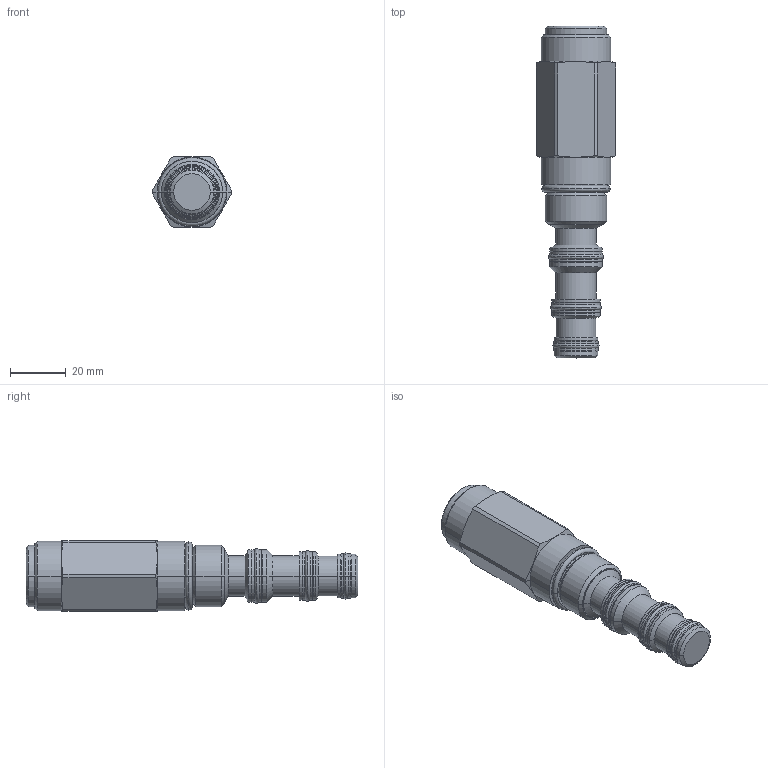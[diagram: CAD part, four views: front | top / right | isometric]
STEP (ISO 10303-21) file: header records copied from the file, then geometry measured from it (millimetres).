
FILE_DESCRIPTION((''),'2;1');
FILE_NAME('5424300_SW0005','2009-02-04T',('jcs'),(''),'PRO/ENGINEER BY PARAMETRIC TECHNOLOGY CORPORATION, 2008010','PRO/ENGINEER BY PARAMETRIC TECHNOLOGY CORPORATION, 2008010','');
FILE_SCHEMA(('CONFIG_CONTROL_DESIGN'));
Length unit declared in the file: inch
Products named in the file (1): 5424300_SW0005
Bounding box: 28.57 x 119.53 x 25.4 mm (x, y, z)
Volume: 45171.9 mm3; surface area: 12305.4 mm2
Topology: 5 solids, 5 shells, 195 faces, 402 edges, 232 vertices
Faces by surface type: cylinder 66, torus 44, revolution 32, plane 31, cone 22
Entity records: 5832 total; most frequent: CARTESIAN_POINT 1545, DIRECTION 980, ORIENTED_EDGE 804, AXIS2_PLACEMENT_3D 427, EDGE_CURVE 402, CIRCLE 264, VERTEX_POINT 232, EDGE_LOOP 218
